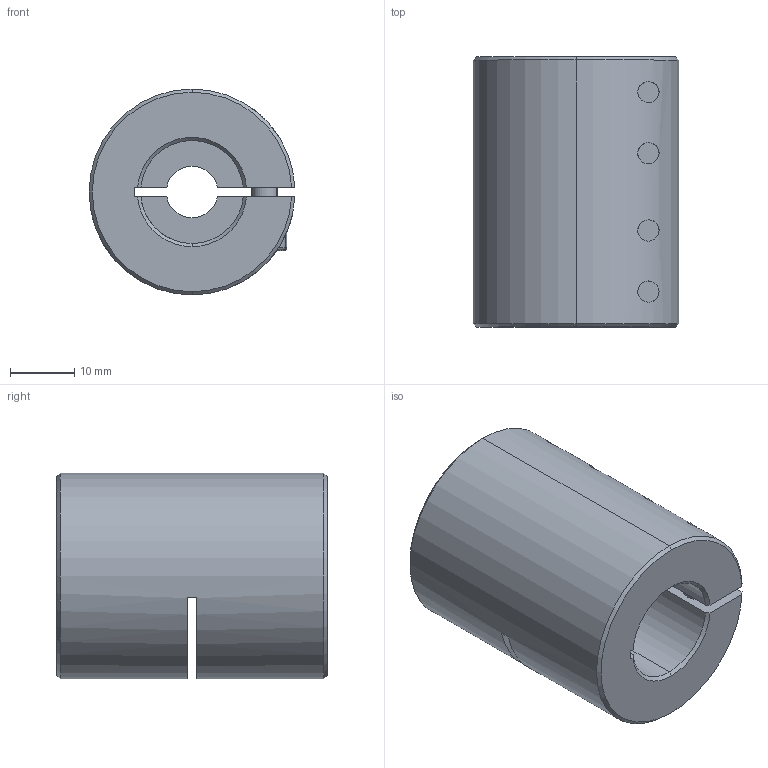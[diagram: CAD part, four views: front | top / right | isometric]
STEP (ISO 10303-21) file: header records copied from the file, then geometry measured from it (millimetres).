
FILE_DESCRIPTION (( 'STEP AP203' ), '1' );
FILE_NAME ('LL-B-D32L42-8-16.STEP', '2021-11-05T07:45:51', ( '' ), ( '' ), 'SwSTEP 2.0', 'SolidWorks 2018', '' );
FILE_SCHEMA (( 'CONFIG_CONTROL_DESIGN' ));
Length unit declared in the file: millimetre
Products named in the file (1): LL-B-D32L42-8-16
Bounding box: 31.98 x 42 x 32 mm (x, y, z)
Volume: 26101.9 mm3; surface area: 10340 mm2
Topology: 1 solids, 1 shells, 192 faces, 489 edges, 307 vertices
Faces by surface type: plane 88, cylinder 76, cone 20, torus 8
Entity records: 6343 total; most frequent: CARTESIAN_POINT 1553, DIRECTION 1032, ORIENTED_EDGE 962, EDGE_CURVE 481, AXIS2_PLACEMENT_3D 402, VERTEX_POINT 307, LINE 228, VECTOR 228
